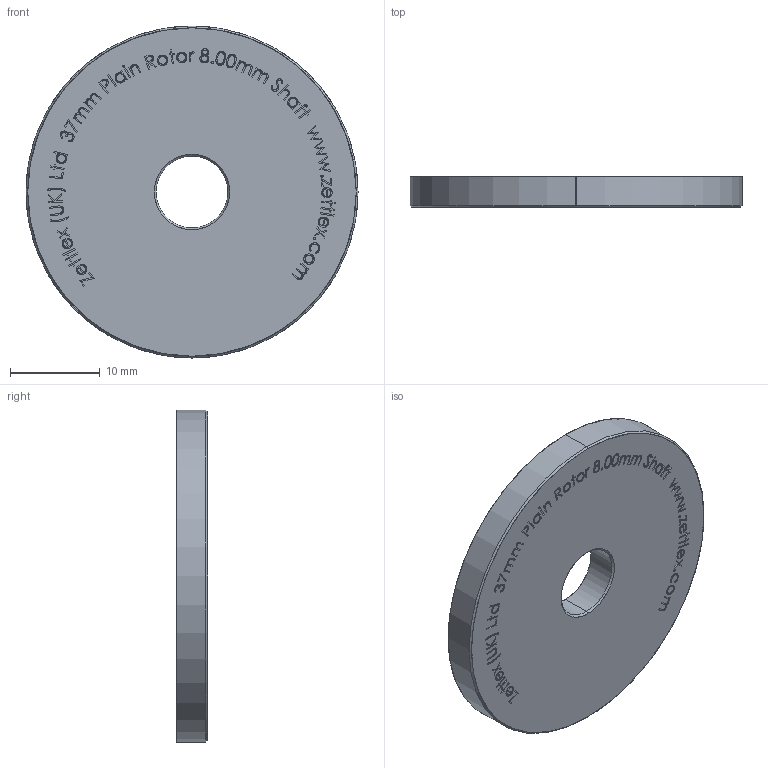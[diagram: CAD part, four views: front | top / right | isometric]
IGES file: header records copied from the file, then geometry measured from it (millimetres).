
Start section: SolidWorks IGES file using analytic representation for surfaces
Global section: file name: C:\Zettlex Data\Mechanical Drawings\4114\37mm Plain Rotor 8.00mm Shaft Rev 1-0.IGS; native system: SolidWorks 2015; preprocessor: SolidWorks 2015; author: Nigel; date: 150904.162114; units: millimetre
Bounding box: 37 x 3.5 x 37 mm (x, y, z)
Surface area: 2561.5 mm2 (no closed solid volume)
Topology: 0 solids, 0 shells, 723 faces, 7751 edges, 7751 vertices
Faces by surface type: bspline 707, revolution 16
